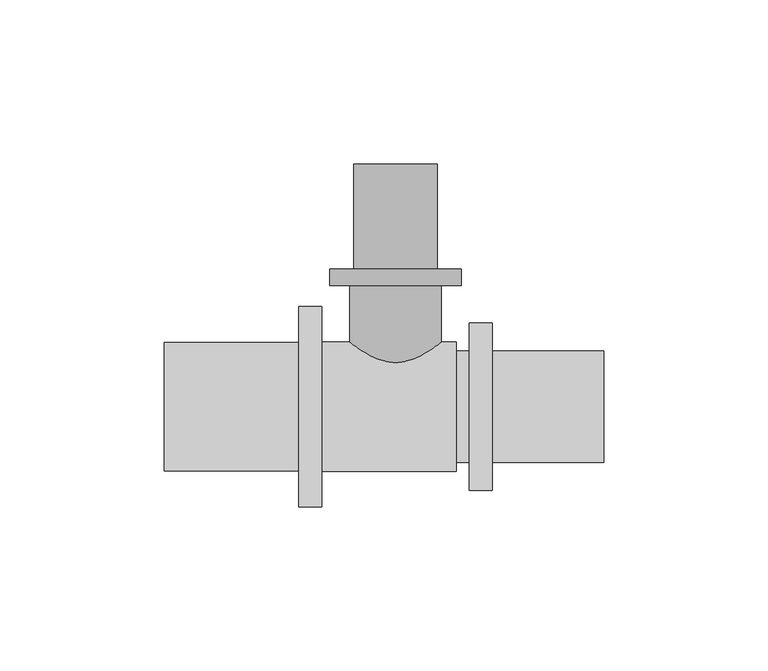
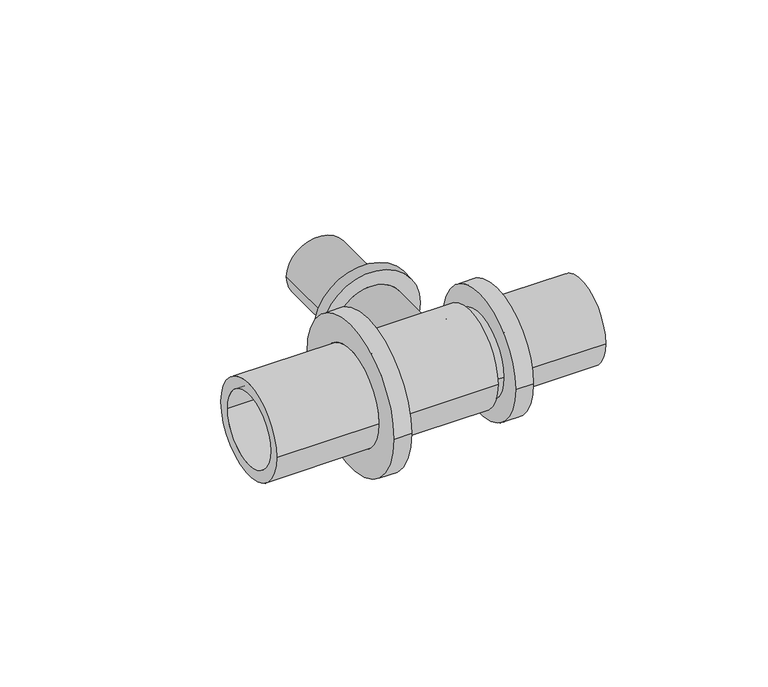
"""IFC4 building model written with IfcOpenShell, lengths in millimetres: pipe fitting geometry, RAUTITAN_T-piece_LX : RTI LX T DN."""

from ifc_helpers import new_model, si_unit, frame, origin, place, context, project, spatial, polyline, circle_curve, source, transform, mapped, element, save
from ifc_brep_helpers import plane_surface, cylinder_surface, revolved_surface, advanced_brep


def pipe_fitting_159ec83a(model_context):
    return source(origin(), model_context, "Body", "AdvancedBrep", [
        advanced_brep(
        [(-14.0, 37.0, 0.0), (14.0, 37.0, 0.0), (14.0, 0.0, 0.0), (-14.0, 0.0, 0.0), (-20.0, 42.0, 0.0), (20.0, 42.0, 0.0), (20.0, 37.0, 0.0), (-20.0, 37.0, 0.0), (-12.7, 74.0, 0.0), (12.7, 74.0, 0.0), (12.7, 42.0, 0.0), (-12.7, 42.0, 0.0), (-10.0, 0.0, 0.0), (10.0, 0.0, 0.0), (10.0, 74.0, 0.0), (-10.0, 74.0, 0.0)],
        [
            (0, 1, circle_curve(frame((0.0, 37.0, 0.0), z_axis=(0.0, -1.0, 0.0), x_axis=(1.0, 0.0, 0.0)), 14.0)),
            (1, 2),
            (2, 3, circle_curve(frame((0.0, 0.0, 0.0), z_axis=(0.0, 1.0, 0.0), x_axis=(1.0, 0.0, 0.0)), 14.0)),
            (3, 0),
            (4, 5, circle_curve(frame((0.0, 42.0, 0.0), z_axis=(0.0, -1.0, 0.0), x_axis=(1.0, 0.0, 0.0)), 20.0)),
            (5, 6),
            (6, 7, circle_curve(frame((0.0, 37.0, 0.0), z_axis=(0.0, 1.0, 0.0), x_axis=(1.0, 0.0, 0.0)), 20.0)),
            (7, 4),
            (8, 9, circle_curve(frame((0.0, 74.0, 0.0), z_axis=(0.0, -1.0, 0.0), x_axis=(1.0, 0.0, 0.0)), 12.7)),
            (9, 10),
            (10, 11, circle_curve(frame((0.0, 42.0, 0.0), z_axis=(0.0, 1.0, 0.0), x_axis=(1.0, 0.0, 0.0)), 12.7)),
            (11, 8),
            (12, 13, circle_curve(frame((0.0, 0.0, 0.0), z_axis=(0.0, -1.0, 0.0), x_axis=(1.0, 0.0, 0.0)), 10.0)),
            (13, 14),
            (14, 15, circle_curve(frame((0.0, 74.0, 0.0), z_axis=(0.0, 1.0, 0.0), x_axis=(1.0, 0.0, 0.0)), 10.0)),
            (15, 12),
            (1, 0, circle_curve(frame((0.0, 37.0, 0.0), z_axis=(0.0, -1.0, 0.0), x_axis=(-1.0, 0.0, 0.0)), 14.0)),
            (3, 2, circle_curve(frame((0.0, 0.0, 0.0), z_axis=(0.0, 1.0, 0.0), x_axis=(-1.0, 0.0, 0.0)), 14.0)),
            (6, 7, circle_curve(frame((0.0, 37.0, 0.0), z_axis=(0.0, -1.0, 0.0), x_axis=(-1.0, 0.0, 0.0)), 20.0)),
            (5, 4, circle_curve(frame((0.0, 42.0, 0.0), z_axis=(0.0, -1.0, 0.0), x_axis=(-1.0, 0.0, 0.0)), 20.0)),
            (10, 11, circle_curve(frame((0.0, 42.0, 0.0), z_axis=(0.0, -1.0, 0.0), x_axis=(-1.0, 0.0, 0.0)), 12.7)),
            (9, 8, circle_curve(frame((0.0, 74.0, 0.0), z_axis=(0.0, -1.0, 0.0), x_axis=(-1.0, 0.0, 0.0)), 12.7)),
            (14, 15, circle_curve(frame((0.0, 74.0, 0.0), z_axis=(0.0, -1.0, 0.0), x_axis=(-1.0, 0.0, 0.0)), 10.0)),
            (13, 12, circle_curve(frame((0.0, 0.0, 0.0), z_axis=(0.0, -1.0, 0.0), x_axis=(-1.0, 0.0, 0.0)), 10.0)),
        ],
        [
            cylinder_surface(frame((0.0, 0.0, 0.0), z_axis=(0.0, 1.0, 0.0), x_axis=(1.0, 0.0, 0.0)), 14.0),
            cylinder_surface(frame((0.0, 0.0, 0.0), z_axis=(0.0, 1.0, 0.0), x_axis=(1.0, 0.0, 0.0)), 20.0),
            cylinder_surface(frame((0.0, 0.0, 0.0), z_axis=(0.0, 1.0, 0.0), x_axis=(1.0, 0.0, 0.0)), 12.7),
            revolved_surface(polyline([(10.0, 74.0, 0.0), (10.0, 0.0, 0.0)]), (0.0, 0.0, 0.0), (0.0, 1.0, 0.0)),
            cylinder_surface(frame((0.0, 0.0, 0.0), z_axis=(0.0, 1.0, 0.0), x_axis=(-1.0, 0.0, 0.0)), 14.0),
            plane_surface(frame((0.0, 37.0, 0.0), z_axis=(0.0, -1.0, 0.0), x_axis=(-1.0, 0.0, 0.0))),
            cylinder_surface(frame((0.0, 0.0, 0.0), z_axis=(0.0, 1.0, 0.0), x_axis=(-1.0, 0.0, 0.0)), 20.0),
            plane_surface(frame((0.0, 42.0, 0.0), z_axis=(0.0, 1.0, 0.0), x_axis=(-1.0, 0.0, 0.0))),
            cylinder_surface(frame((0.0, 0.0, 0.0), z_axis=(0.0, 1.0, 0.0), x_axis=(-1.0, 0.0, 0.0)), 12.7),
            plane_surface(frame((0.0, 74.0, 0.0), z_axis=(0.0, 1.0, 0.0), x_axis=(-1.0, 0.0, 0.0))),
            revolved_surface(polyline([(-10.0, 74.0, 0.0), (-10.0, 0.0, 0.0)]), (0.0, 0.0, 0.0), (0.0, 1.0, 0.0)),
            plane_surface(frame((0.0, 0.0, 0.0), z_axis=(0.0, -1.0, 0.0), x_axis=(-1.0, 0.0, 0.0))),
        ],
        [
            (0, [[1, 2, 3, 4]]),
            (1, [[5, 6, 7, 8]]),
            (2, [[9, 10, 11, 12]]),
            (3, [[13, 14, 15, 16]]),
            (4, [[17, -4, 18, -2]]),
            (5, [[19, -7], [-17, -1]]),
            (6, [[20, -8, -19, -6]]),
            (7, [[-20, -5], [21, -11]]),
            (8, [[22, -12, -21, -10]]),
            (9, [[-22, -9], [23, -15]]),
            (10, [[24, -16, -23, -14]]),
            (11, [[-18, -3], [-24, -13]]),
        ],
    ),
        advanced_brep(
        [(-70.5, 15.0, 0.0), (-70.5, -15.0, 0.0), (14.0, -15.0, 0.0), (14.0, 15.0, 0.0), (18.5, 19.8, 0.0), (18.5, -19.8, 0.0), (-22.5, -19.8, 0.0), (-22.5, 19.8, 0.0), (-22.5, 30.5, 0.0), (-22.5, -30.5, 0.0), (-29.5, -30.5, 0.0), (-29.5, 30.5, 0.0), (-29.5, 19.6, 0.0), (-29.5, -19.6, 0.0), (-70.5, -19.6, 0.0), (-70.5, 19.6, 0.0), (14.0, 12.5, 0.0), (14.0, -12.5, 0.0), (63.5, -12.5, 0.0), (63.5, 12.5, 0.0), (63.5, 17.0, 0.0), (63.5, -17.0, 0.0), (29.5, -17.0, 0.0), (29.5, 17.0, 0.0), (29.5, 25.5, 0.0), (29.5, -25.5, 0.0), (22.5, -25.5, 0.0), (22.5, 25.5, 0.0), (22.5, 17.0, 0.0), (22.5, -17.0, 0.0), (18.5, -17.0, 0.0), (18.5, 17.0, 0.0)],
        [
            (0, 1, circle_curve(frame((-70.5, 0.0, 0.0), z_axis=(-1.0, 0.0, 0.0), x_axis=(0.0, -1.0, 0.0)), 15.0)),
            (1, 2),
            (2, 3, circle_curve(frame((14.0, 0.0, 0.0), z_axis=(1.0, 0.0, 0.0), x_axis=(0.0, -1.0, 0.0)), 15.0)),
            (3, 0),
            (4, 5, circle_curve(frame((18.5, 0.0, 0.0), z_axis=(-1.0, 0.0, 0.0), x_axis=(0.0, -1.0, 0.0)), 19.8)),
            (5, 6),
            (6, 7, circle_curve(frame((-22.5, 0.0, 0.0), z_axis=(1.0, 0.0, 0.0), x_axis=(0.0, -1.0, 0.0)), 19.8)),
            (7, 4),
            (1, 0, circle_curve(frame((-70.5, 0.0, 0.0), z_axis=(-1.0, 0.0, 0.0), x_axis=(0.0, 1.0, 0.0)), 15.0)),
            (3, 2, circle_curve(frame((14.0, 0.0, 0.0), z_axis=(1.0, 0.0, 0.0), x_axis=(0.0, 1.0, 0.0)), 15.0)),
            (5, 4, circle_curve(frame((18.5, 0.0, 0.0), z_axis=(-1.0, 0.0, 0.0), x_axis=(0.0, 1.0, 0.0)), 19.8)),
            (7, 6, circle_curve(frame((-22.5, 0.0, 0.0), z_axis=(1.0, 0.0, 0.0), x_axis=(0.0, 1.0, 0.0)), 19.8)),
            (8, 9, circle_curve(frame((-22.5, 0.0, 0.0), z_axis=(-1.0, 0.0, 0.0), x_axis=(0.0, -1.0, 0.0)), 30.5)),
            (9, 10),
            (10, 11, circle_curve(frame((-29.5, 0.0, 0.0), z_axis=(1.0, 0.0, 0.0), x_axis=(0.0, -1.0, 0.0)), 30.5)),
            (11, 8),
            (12, 13, circle_curve(frame((-29.5, 0.0, 0.0), z_axis=(-1.0, 0.0, 0.0), x_axis=(0.0, -1.0, 0.0)), 19.6)),
            (13, 14),
            (14, 15, circle_curve(frame((-70.5, 0.0, 0.0), z_axis=(1.0, 0.0, 0.0), x_axis=(0.0, -1.0, 0.0)), 19.6)),
            (15, 12),
            (8, 9, circle_curve(frame((-22.5, 0.0, 0.0), z_axis=(1.0, 0.0, 0.0), x_axis=(0.0, 1.0, 0.0)), 30.5)),
            (11, 10, circle_curve(frame((-29.5, 0.0, 0.0), z_axis=(1.0, 0.0, 0.0), x_axis=(0.0, 1.0, 0.0)), 30.5)),
            (12, 13, circle_curve(frame((-29.5, 0.0, 0.0), z_axis=(1.0, 0.0, 0.0), x_axis=(0.0, 1.0, 0.0)), 19.6)),
            (15, 14, circle_curve(frame((-70.5, 0.0, 0.0), z_axis=(1.0, 0.0, 0.0), x_axis=(0.0, 1.0, 0.0)), 19.6)),
            (16, 17, circle_curve(frame((14.0, 0.0, 0.0), z_axis=(-1.0, 0.0, 0.0), x_axis=(0.0, -1.0, 0.0)), 12.5)),
            (17, 18),
            (18, 19, circle_curve(frame((63.5, 0.0, 0.0), z_axis=(1.0, 0.0, 0.0), x_axis=(0.0, -1.0, 0.0)), 12.5)),
            (19, 16),
            (20, 21, circle_curve(frame((63.5, 0.0, 0.0), z_axis=(-1.0, 0.0, 0.0), x_axis=(0.0, -1.0, 0.0)), 17.0)),
            (21, 22),
            (22, 23, circle_curve(frame((29.5, 0.0, 0.0), z_axis=(1.0, 0.0, 0.0), x_axis=(0.0, -1.0, 0.0)), 17.0)),
            (23, 20),
            (24, 25, circle_curve(frame((29.5, 0.0, 0.0), z_axis=(-1.0, 0.0, 0.0), x_axis=(0.0, -1.0, 0.0)), 25.5)),
            (25, 26),
            (26, 27, circle_curve(frame((22.5, 0.0, 0.0), z_axis=(1.0, 0.0, 0.0), x_axis=(0.0, -1.0, 0.0)), 25.5)),
            (27, 24),
            (28, 29, circle_curve(frame((22.5, 0.0, 0.0), z_axis=(-1.0, 0.0, 0.0), x_axis=(0.0, -1.0, 0.0)), 17.0)),
            (29, 30),
            (30, 31, circle_curve(frame((18.5, 0.0, 0.0), z_axis=(1.0, 0.0, 0.0), x_axis=(0.0, -1.0, 0.0)), 17.0)),
            (31, 28),
            (16, 17, circle_curve(frame((14.0, 0.0, 0.0), z_axis=(1.0, 0.0, 0.0), x_axis=(0.0, 1.0, 0.0)), 12.5)),
            (19, 18, circle_curve(frame((63.5, 0.0, 0.0), z_axis=(1.0, 0.0, 0.0), x_axis=(0.0, 1.0, 0.0)), 12.5)),
            (20, 21, circle_curve(frame((63.5, 0.0, 0.0), z_axis=(1.0, 0.0, 0.0), x_axis=(0.0, 1.0, 0.0)), 17.0)),
            (23, 22, circle_curve(frame((29.5, 0.0, 0.0), z_axis=(1.0, 0.0, 0.0), x_axis=(0.0, 1.0, 0.0)), 17.0)),
            (24, 25, circle_curve(frame((29.5, 0.0, 0.0), z_axis=(1.0, 0.0, 0.0), x_axis=(0.0, 1.0, 0.0)), 25.5)),
            (27, 26, circle_curve(frame((22.5, 0.0, 0.0), z_axis=(1.0, 0.0, 0.0), x_axis=(0.0, 1.0, 0.0)), 25.5)),
            (28, 29, circle_curve(frame((22.5, 0.0, 0.0), z_axis=(1.0, 0.0, 0.0), x_axis=(0.0, 1.0, 0.0)), 17.0)),
            (31, 30, circle_curve(frame((18.5, 0.0, 0.0), z_axis=(1.0, 0.0, 0.0), x_axis=(0.0, 1.0, 0.0)), 17.0)),
        ],
        [
            revolved_surface(polyline([(14.0, -15.0, 0.0), (-70.5, -15.0, 0.0)]), (0.0, 0.0, 0.0), (1.0, 0.0, 0.0)),
            cylinder_surface(frame((0.0, 0.0, 0.0), z_axis=(1.0, 0.0, 0.0), x_axis=(0.0, -1.0, 0.0)), 19.8),
            revolved_surface(polyline([(14.0, 15.0, 0.0), (-70.5, 15.0, 0.0)]), (0.0, 0.0, 0.0), (1.0, 0.0, 0.0)),
            cylinder_surface(frame((0.0, 0.0, 0.0), z_axis=(1.0, 0.0, 0.0), x_axis=(0.0, 1.0, 0.0)), 19.8),
            cylinder_surface(frame((0.0, 0.0, 0.0), z_axis=(1.0, 0.0, 0.0), x_axis=(0.0, -1.0, 0.0)), 30.5),
            cylinder_surface(frame((0.0, 0.0, 0.0), z_axis=(1.0, 0.0, 0.0), x_axis=(0.0, -1.0, 0.0)), 19.6),
            plane_surface(frame((-22.5, 0.0, 0.0), z_axis=(1.0, 0.0, 0.0), x_axis=(0.0, 1.0, 0.0))),
            cylinder_surface(frame((0.0, 0.0, 0.0), z_axis=(1.0, 0.0, 0.0), x_axis=(0.0, 1.0, 0.0)), 30.5),
            plane_surface(frame((-29.5, 0.0, 0.0), z_axis=(-1.0, 0.0, 0.0), x_axis=(0.0, 1.0, 0.0))),
            cylinder_surface(frame((0.0, 0.0, 0.0), z_axis=(1.0, 0.0, 0.0), x_axis=(0.0, 1.0, 0.0)), 19.6),
            plane_surface(frame((-70.5, 0.0, 0.0), z_axis=(-1.0, 0.0, 0.0), x_axis=(0.0, 1.0, 0.0))),
            revolved_surface(polyline([(63.5, -12.5, 0.0), (14.0, -12.5, 0.0)]), (0.0, 0.0, 0.0), (1.0, 0.0, 0.0)),
            cylinder_surface(frame((0.0, 0.0, 0.0), z_axis=(1.0, 0.0, 0.0), x_axis=(0.0, -1.0, 0.0)), 17.0),
            cylinder_surface(frame((0.0, 0.0, 0.0), z_axis=(1.0, 0.0, 0.0), x_axis=(0.0, -1.0, 0.0)), 25.5),
            plane_surface(frame((14.0, 0.0, 0.0), z_axis=(-1.0, 0.0, 0.0), x_axis=(0.0, 1.0, 0.0))),
            revolved_surface(polyline([(63.5, 12.5, 0.0), (14.0, 12.5, 0.0)]), (0.0, 0.0, 0.0), (1.0, 0.0, 0.0)),
            plane_surface(frame((63.5, 0.0, 0.0), z_axis=(1.0, 0.0, 0.0), x_axis=(0.0, 1.0, 0.0))),
            cylinder_surface(frame((0.0, 0.0, 0.0), z_axis=(1.0, 0.0, 0.0), x_axis=(0.0, 1.0, 0.0)), 17.0),
            plane_surface(frame((29.5, 0.0, 0.0), z_axis=(1.0, 0.0, 0.0), x_axis=(0.0, 1.0, 0.0))),
            cylinder_surface(frame((0.0, 0.0, 0.0), z_axis=(1.0, 0.0, 0.0), x_axis=(0.0, 1.0, 0.0)), 25.5),
            plane_surface(frame((22.5, 0.0, 0.0), z_axis=(-1.0, 0.0, 0.0), x_axis=(0.0, 1.0, 0.0))),
            plane_surface(frame((18.5, 0.0, 0.0), z_axis=(1.0, 0.0, 0.0), x_axis=(0.0, 1.0, 0.0))),
        ],
        [
            (0, [[1, 2, 3, 4]]),
            (1, [[5, 6, 7, 8]]),
            (2, [[9, -4, 10, -2]]),
            (3, [[11, -8, 12, -6]]),
            (4, [[13, 14, 15, 16]]),
            (5, [[17, 18, 19, 20]]),
            (6, [[21, -13], [-12, -7]]),
            (7, [[-21, -16, 22, -14]]),
            (8, [[-22, -15], [23, -17]]),
            (9, [[-23, -20, 24, -18]]),
            (10, [[-24, -19], [-9, -1]]),
            (11, [[25, 26, 27, 28]]),
            (12, [[29, 30, 31, 32]]),
            (13, [[33, 34, 35, 36]]),
            (12, [[37, 38, 39, 40]]),
            (14, [[-10, -3], [41, -25]]),
            (15, [[-41, -28, 42, -26]]),
            (16, [[43, -29], [-42, -27]]),
            (17, [[-43, -32, 44, -30]]),
            (18, [[45, -33], [-44, -31]]),
            (19, [[-45, -36, 46, -34]]),
            (20, [[-46, -35], [47, -37]]),
            (17, [[-47, -40, 48, -38]]),
            (21, [[-11, -5], [-48, -39]]),
        ],
    ),
    ])


if __name__ == "__main__":
    model = new_model("IFC4")
    model_context = context("Model", 3, world=origin())
    ifc_project = project(units=[si_unit("LENGTHUNIT", "METRE", prefix="MILLI")], contexts=[model_context])
    site = spatial("IfcSite", under=ifc_project)
    building = spatial("IfcBuilding", under=site)
    placement = place(None, origin())
    pipe_fitting_shape = pipe_fitting_159ec83a(model_context)
    element("IfcPipeFitting", 1, ObjectType="RAUTITAN_T-piece_LX : RTI LX T DN", at=placement, inside=building, context=model_context, shape_type="MappedRepresentation", body=[
        mapped(pipe_fitting_shape, transform((0.0, 0.0, 0.0), x_axis=(1.0, 0.0, 0.0), y_axis=(0.0, 1.0, 0.0), z_axis=(0.0, 0.0, 1.0))),
    ])
    save(model, "model.ifc")
